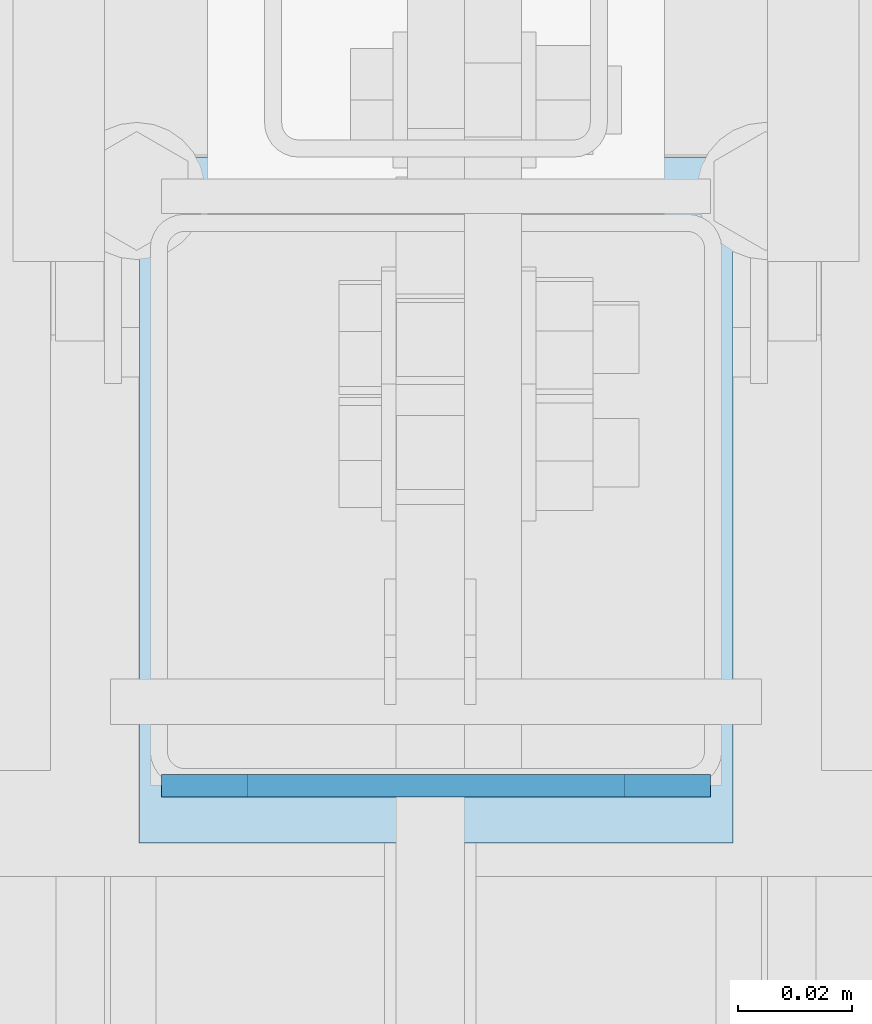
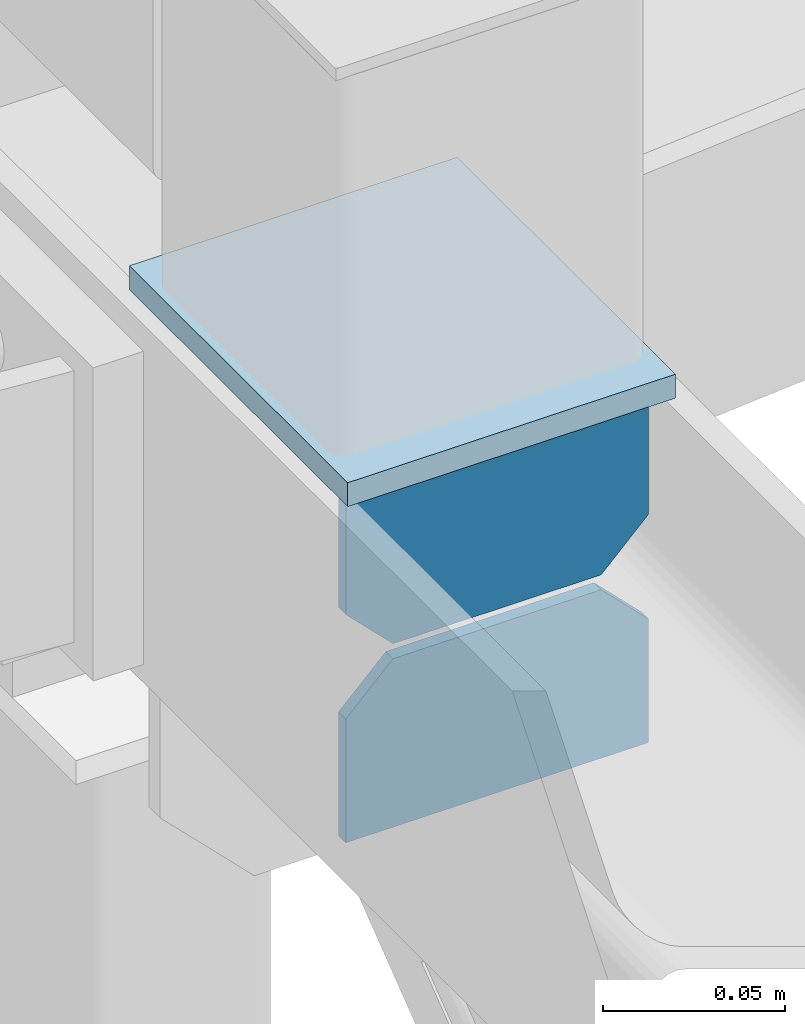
# One storey, part 131 of 271: 3 plates, 1 element without a shape of its own.
"""IFC2X3 building model written with IfcOpenShell, lengths in millimetres."""

from ifc_helpers import new_model, si_unit, frame, origin_with_axes, place, context, subcontext, project, spatial, polyline, outline, extrude, material, type_object, element, aggregate, save


model = new_model("IFC2X3")

# Units and contexts
model_context = context("Model", 3, precision=1e-05, world=origin_with_axes())
body_context = subcontext(model_context, "Body", "Model", "MODEL_VIEW")
ifc_project = project(units=[si_unit("LENGTHUNIT", "METRE", prefix="MILLI"), si_unit("AREAUNIT", "SQUARE_METRE"), si_unit("VOLUMEUNIT", "CUBIC_METRE"), si_unit("MASSUNIT", "GRAM", prefix="KILO"), si_unit("TIMEUNIT", "SECOND"), si_unit("PLANEANGLEUNIT", "RADIAN"), si_unit("SOLIDANGLEUNIT", "STERADIAN"), si_unit("THERMODYNAMICTEMPERATUREUNIT", "DEGREE_CELSIUS"), si_unit("LUMINOUSINTENSITYUNIT", "LUMEN")], contexts=[model_context])

# Site, building, storey
site_placement = place(None, origin_with_axes())
site = spatial("IfcSite", under=ifc_project, at=site_placement, Name="Undefined", CompositionType="ELEMENT")
building_placement = place(site_placement, origin_with_axes())
building = spatial("IfcBuilding", under=site, at=building_placement, Name="Undefined", CompositionType="ELEMENT")
storey_placement = place(building_placement, origin_with_axes())
storey = spatial("IfcBuildingStorey", under=building, at=storey_placement, Name="Undefined", CompositionType="ELEMENT", Elevation=0.0)

# Assembly, plates
assembly_placement = place(storey_placement, origin_with_axes())
assembly = element("IfcElementAssembly", 1, at=assembly_placement, inside=storey, AssemblyPlace="NOTDEFINED", PredefinedType="RIGID_FRAME")
ifc_material = material(Name="STEEL/S355JR")
plate_type_1 = type_object("IfcPlateType", Name="BL8*104", PredefinedType="NOTDEFINED")
plate_1_placement = place(assembly_placement, frame((6400.37568735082, 3674.92439872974, 20068.3499999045), z_axis=(0.0, 0.0, 1.0), x_axis=(-1.0, 0.0, 1.38777878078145e-17)))
plate_1 = element("IfcPlate", 2, at=plate_1_placement, type_object=plate_type_1, material=ifc_material, Name="BLACHA", ObjectType="BL8*104", context=body_context, shape_type="SweptSolid", body=[
    extrude(outline(polyline([(0.0, 0.0), (104.0, 0.0), (104.0, 120.0), (0.0, 120.0), (0.0, 0.0)])), frame((0.0, 0.0, -4.0), z_axis=(0.0, 0.0, 1.0), x_axis=(1.0, 0.0, 0.0)), (0.0, 0.0, 1.0), 8.0),
])
plate_type_2 = type_object("IfcPlateType", Name="BL4*57", PredefinedType="NOTDEFINED")
plate_2_placement = place(assembly_placement, frame((6300.37568709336, 3564.92439872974, 19945.3499999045), z_axis=(0.0, 1.0, 0.0), x_axis=(0.0, 0.0, 1.0)))
plate_2 = element("IfcPlate", 3, at=plate_2_placement, type_object=plate_type_2, material=ifc_material, Name="BLACHA", ObjectType="BL4*57", context=body_context, shape_type="SweptSolid", body=[
    extrude(outline(polyline([(0.0, 0.0), (41.5, 0.0), (56.5, 15.0), (56.5, 81.0), (41.5, 96.0), (0.0, 96.0), (0.0, 0.0)])), frame((0.0, 0.0, -2.0), z_axis=(0.0, 0.0, 1.0), x_axis=(1.0, 0.0, 0.0)), (0.0, 0.0, 1.0), 4.0),
])
plate_3_placement = place(assembly_placement, frame((6300.37568709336, 3564.92439872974, 20006.8499999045), z_axis=(0.0, 1.0, 0.0), x_axis=(0.0, 0.0, 1.0)))
plate_3 = element("IfcPlate", 4, at=plate_3_placement, type_object=plate_type_2, material=ifc_material, Name="BLACHA", ObjectType="BL4*57", context=body_context, shape_type="SweptSolid", body=[
    extrude(outline(polyline([(0.0, 15.0), (15.0, -1.59872115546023e-14), (56.5, -1.77635683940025e-14), (56.5, 96.0000000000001), (15.0, 96.0000000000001), (0.0, 81.0000000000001), (0.0, 15.0)])), frame((0.0, 0.0, -2.0), z_axis=(0.0, 0.0, 1.0), x_axis=(1.0, 0.0, 0.0)), (0.0, 0.0, 1.0), 4.0),
])
aggregate(assembly, [plate_2, plate_3, plate_1])

save(model, "model.ifc")
